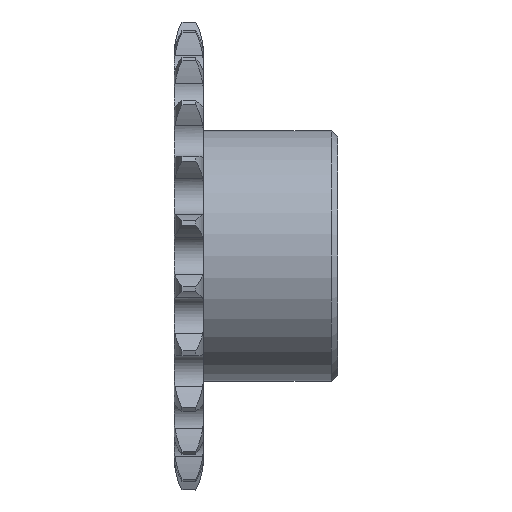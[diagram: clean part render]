
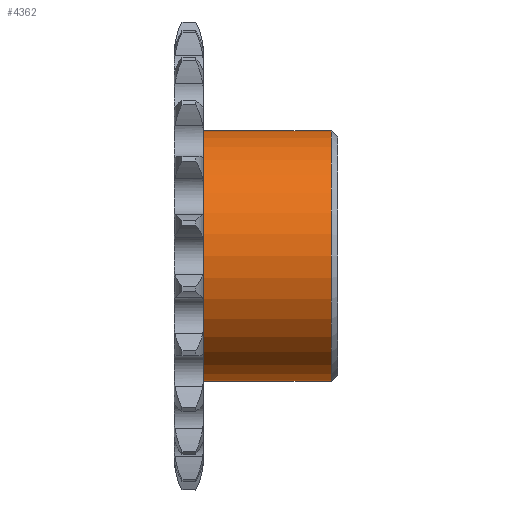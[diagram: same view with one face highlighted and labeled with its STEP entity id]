
A CAD part, front view. The second image highlights one B-rep face of the part: STEP entity #4362.
In plain terms, the highlighted cylindrical face has radius 10 mm (diameter 20 mm), a full revolution.
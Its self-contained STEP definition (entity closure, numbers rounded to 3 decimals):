
#374=CYLINDRICAL_SURFACE('',#4835,10.);
#645=LINE('',#8231,#919);
#919=VECTOR('',#6009,10.);
#1150=FACE_OUTER_BOUND('',#1387,.T.);
#1387=EDGE_LOOP('',(#4061,#4062,#4063,#4064));
#1611=CIRCLE('',#4834,10.);
#1612=CIRCLE('',#4836,10.);
#2058=VERTEX_POINT('',#8226);
#2059=VERTEX_POINT('',#8229);
#2726=EDGE_CURVE('',#2058,#2058,#1611,.T.);
#2727=EDGE_CURVE('',#2059,#2059,#1612,.T.);
#2728=EDGE_CURVE('',#2059,#2058,#645,.T.);
#4061=ORIENTED_EDGE('',*,*,#2727,.F.);
#4062=ORIENTED_EDGE('',*,*,#2728,.T.);
#4063=ORIENTED_EDGE('',*,*,#2726,.T.);
#4064=ORIENTED_EDGE('',*,*,#2728,.F.);
#4362=ADVANCED_FACE('',(#1150),#374,.T.);
#4834=AXIS2_PLACEMENT_3D('',#8227,#6003,#6004);
#4835=AXIS2_PLACEMENT_3D('',#8228,#6005,#6006);
#4836=AXIS2_PLACEMENT_3D('',#8230,#6007,#6008);
#6003=DIRECTION('center_axis',(1.,0.,0.));
#6004=DIRECTION('ref_axis',(0.,0.,-1.));
#6005=DIRECTION('center_axis',(1.,0.,0.));
#6006=DIRECTION('ref_axis',(0.,1.,0.));
#6007=DIRECTION('center_axis',(1.,0.,0.));
#6008=DIRECTION('ref_axis',(0.,0.,-1.));
#6009=DIRECTION('',(-1.,0.,0.));
#8226=CARTESIAN_POINT('',(2.3,-10.,0.));
#8227=CARTESIAN_POINT('Origin',(2.3,0.,0.));
#8228=CARTESIAN_POINT('Origin',(7.4,0.,0.));
#8229=CARTESIAN_POINT('',(12.5,-10.,0.));
#8230=CARTESIAN_POINT('Origin',(12.5,0.,0.));
#8231=CARTESIAN_POINT('',(7.4,-10.,0.));
